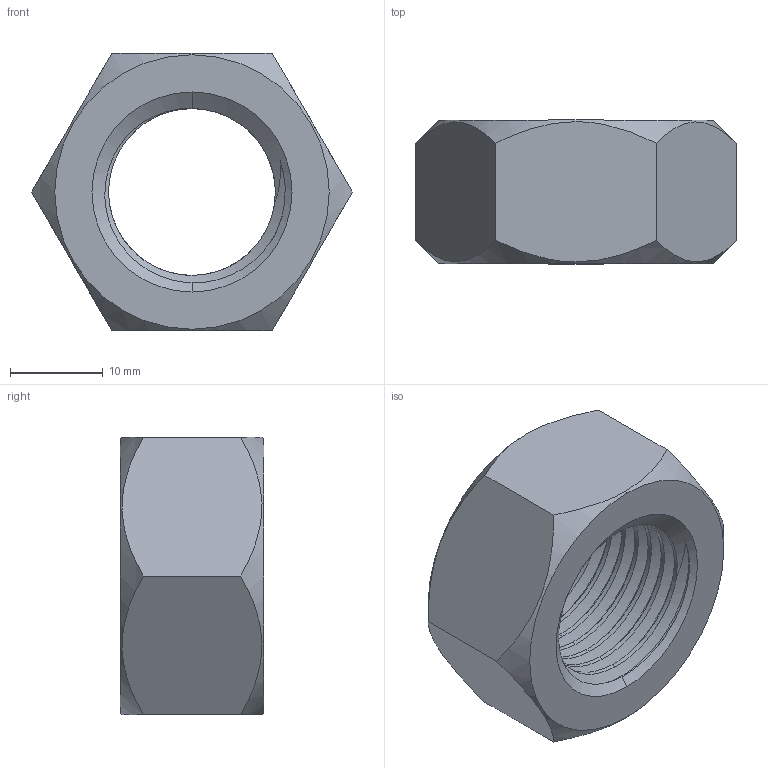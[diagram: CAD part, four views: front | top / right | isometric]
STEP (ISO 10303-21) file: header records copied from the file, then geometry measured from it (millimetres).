
FILE_DESCRIPTION (( 'STEP AP203' ), '1' );
FILE_NAME ('TANRM-304-M20x2.STEP', '2026-08-21T15:13:22', ( '' ), ( '' ), 'SwSTEP 2.0', 'SolidWorks 2020', '' );
FILE_SCHEMA (( 'CONFIG_CONTROL_DESIGN' ));
Length unit declared in the file: millimetre
Products named in the file (1): TANRM-304-M20x2
Bounding box: 34.64 x 15.5 x 30 mm (x, y, z)
Volume: 7488.5 mm3; surface area: 3838 mm2
Topology: 1 solids, 1 shells, 34 faces, 95 edges, 63 vertices
Faces by surface type: cylinder 14, cone 9, plane 8, bspline 3
Entity records: 3384 total; most frequent: CARTESIAN_POINT 2567, ORIENTED_EDGE 190, DIRECTION 114, EDGE_CURVE 95, VERTEX_POINT 63, AXIS2_PLACEMENT_3D 43, EDGE_LOOP 36, FACE_OUTER_BOUND 34
